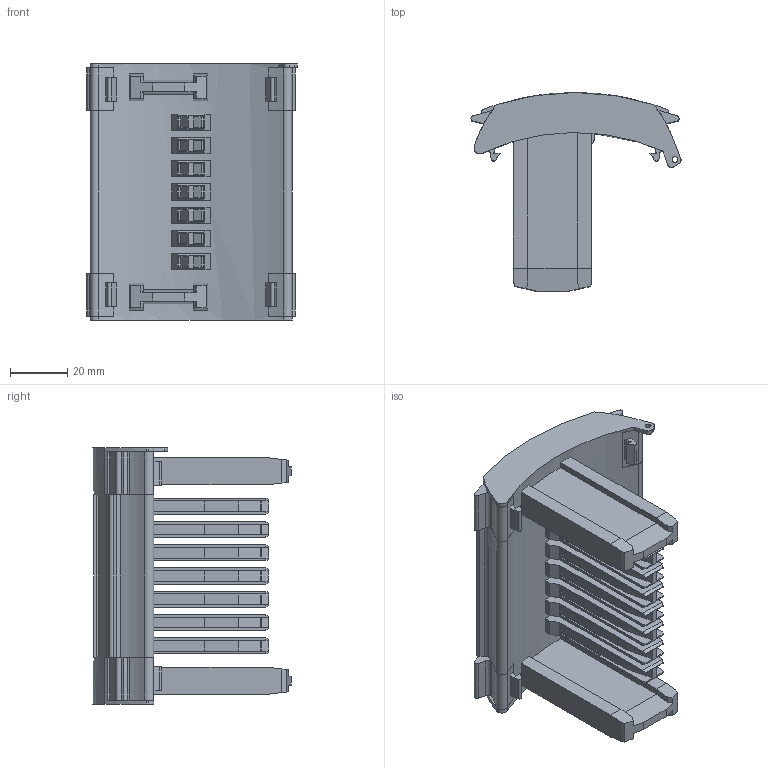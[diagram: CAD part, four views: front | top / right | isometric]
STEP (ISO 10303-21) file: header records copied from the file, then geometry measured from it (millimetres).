
FILE_DESCRIPTION(('TFLEX Exchange Step'),'2;1');
FILE_NAME('3074121_FAME_WP_6+1_STEZ.stp', '2024-05-28T10:55:17+03:00',('apanin'),('Unknown organisation'),'TFLEX Exchange 2023.2','T-FLEX CAD','Unknown authorisation');
FILE_SCHEMA( ('AUTOMOTIVE_DESIGN { 1 0 10303 214 1 1 1 1 }') );
Length unit declared in the file: millimetre
Products named in the file (1): Тело_1 - 3074121_FAME_WP_6_1-select:1
Bounding box: 73.53 x 69.5 x 89.65 mm (x, y, z)
Volume: 116319.7 mm3; surface area: 39914.4 mm2
Topology: 1 solids, 1 shells, 449 faces, 1246 edges, 814 vertices
Faces by surface type: plane 388, cylinder 61
Full cylindrical faces by diameter (mm): 2 x1
Entity records: 14353 total; most frequent: CARTESIAN_POINT 2510, ORIENTED_EDGE 2492, DIRECTION 2358, EDGE_CURVE 1246, VECTOR 1034, LINE 1034, VERTEX_POINT 814, AXIS2_PLACEMENT_3D 662
